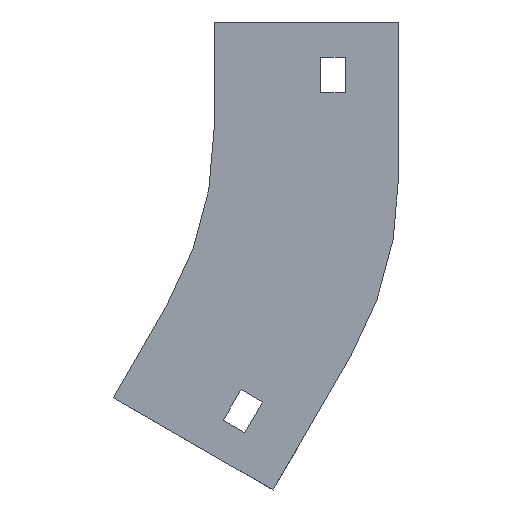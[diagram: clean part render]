
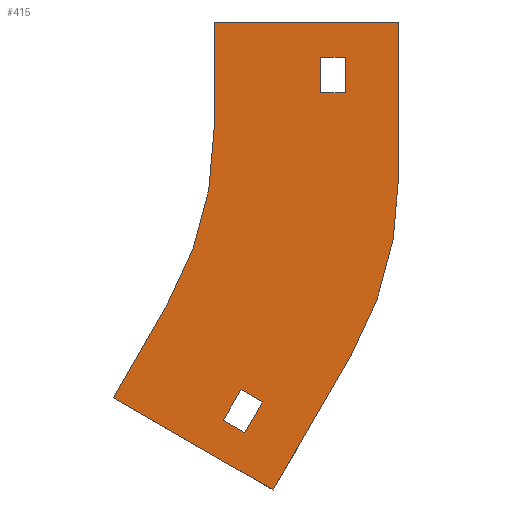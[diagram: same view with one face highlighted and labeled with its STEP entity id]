
A CAD part, left-side view. The second image highlights one B-rep face of the part: STEP entity #415.
In plain terms, the highlighted planar face has unit normal (-1, 0, 0).
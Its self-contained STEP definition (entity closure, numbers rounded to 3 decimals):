
#4 = CARTESIAN_POINT ( 'NONE',  ( -152., 13.397, -80. ) ) ;
#9 = VECTOR ( 'NONE', #1042, 1000. ) ;
#11 = CARTESIAN_POINT ( 'NONE',  ( -152., -30., -10. ) ) ;
#19 = DIRECTION ( 'NONE',  ( 0., 0., 1. ) ) ;
#24 = DIRECTION ( 'NONE',  ( 0., 0., -1. ) ) ;
#70 = EDGE_CURVE ( 'NONE', #782, #814, #1027, .T. ) ;
#79 = VECTOR ( 'NONE', #1400, 1000. ) ;
#91 = DIRECTION ( 'NONE',  ( 0., 0., -1. ) ) ;
#110 = CARTESIAN_POINT ( 'NONE',  ( -152., 0., -30. ) ) ;
#126 = DIRECTION ( 'NONE',  ( 0., -1., 0. ) ) ;
#138 = CARTESIAN_POINT ( 'NONE',  ( -152., -7.583, -103.66 ) ) ;
#155 = CARTESIAN_POINT ( 'NONE',  ( -152., -37., -20. ) ) ;
#161 = EDGE_CURVE ( 'NONE', #298, #982, #748, .T. ) ;
#174 = EDGE_CURVE ( 'NONE', #691, #298, #1404, .T. ) ;
#175 = LINE ( 'NONE', #720, #9 ) ;
#176 = VERTEX_POINT ( 'NONE', #405 ) ;
#177 = DIRECTION ( 'NONE',  ( 0., -1., 0. ) ) ;
#182 = AXIS2_PLACEMENT_3D ( 'NONE', #1276, #510, #91 ) ;
#186 = ORIENTED_EDGE ( 'NONE', *, *, #271, .F. ) ;
#188 = AXIS2_PLACEMENT_3D ( 'NONE', #1229, #242, #896 ) ;
#192 = VECTOR ( 'NONE', #1225, 1000. ) ;
#218 = CARTESIAN_POINT ( 'NONE',  ( -152., 100., -30. ) ) ;
#228 = LINE ( 'NONE', #884, #1122 ) ;
#232 = LINE ( 'NONE', #766, #318 ) ;
#234 = VERTEX_POINT ( 'NONE', #1263 ) ;
#242 = DIRECTION ( 'NONE',  ( 1., 0., 0. ) ) ;
#271 = EDGE_CURVE ( 'NONE', #982, #234, #1389, .T. ) ;
#282 = VERTEX_POINT ( 'NONE', #617 ) ;
#284 = VECTOR ( 'NONE', #328, 1000. ) ;
#288 = ORIENTED_EDGE ( 'NONE', *, *, #401, .T. ) ;
#292 = EDGE_LOOP ( 'NONE', ( #186, #761, #934, #1091, #867, #320, #723, #673 ) ) ;
#298 = VERTEX_POINT ( 'NONE', #110 ) ;
#318 = VECTOR ( 'NONE', #126, 1000. ) ;
#320 = ORIENTED_EDGE ( 'NONE', *, *, #634, .F. ) ;
#321 = CARTESIAN_POINT ( 'NONE',  ( -152., -30., -20. ) ) ;
#328 = DIRECTION ( 'NONE',  ( 0., -0.5, 0.866 ) ) ;
#333 = EDGE_CURVE ( 'NONE', #1010, #691, #1097, .T. ) ;
#343 = FACE_BOUND ( 'NONE', #1302, .T. ) ;
#344 = ORIENTED_EDGE ( 'NONE', *, *, #1386, .T. ) ;
#345 = DIRECTION ( 'NONE',  ( 0., 0.866, 0.5 ) ) ;
#349 = LINE ( 'NONE', #369, #1102 ) ;
#352 = VECTOR ( 'NONE', #19, 1000. ) ;
#354 = DIRECTION ( 'NONE',  ( 0., 1., 0. ) ) ;
#363 = LINE ( 'NONE', #794, #192 ) ;
#369 = CARTESIAN_POINT ( 'NONE',  ( -152., -2.583, -112.321 ) ) ;
#396 = ORIENTED_EDGE ( 'NONE', *, *, #823, .F. ) ;
#401 = EDGE_CURVE ( 'NONE', #1278, #782, #232, .T. ) ;
#405 = CARTESIAN_POINT ( 'NONE',  ( -152., -13.645, -107.16 ) ) ;
#406 = VERTEX_POINT ( 'NONE', #647 ) ;
#415 = ADVANCED_FACE ( 'NONE', ( #1084, #343, #540 ), #1211, .F. ) ;
#416 = CIRCLE ( 'NONE', #188, 100. ) ;
#424 = LINE ( 'NONE', #1076, #79 ) ;
#449 = VERTEX_POINT ( 'NONE', #1008 ) ;
#491 = VERTEX_POINT ( 'NONE', #138 ) ;
#510 = DIRECTION ( 'NONE',  ( -1., 0., 0. ) ) ;
#540 = FACE_BOUND ( 'NONE', #662, .T. ) ;
#542 = CARTESIAN_POINT ( 'NONE',  ( -152., -52., -43.933 ) ) ;
#589 = CARTESIAN_POINT ( 'NONE',  ( -152., -30., -10. ) ) ;
#606 = DIRECTION ( 'NONE',  ( 0., -0.5, 0.866 ) ) ;
#610 = CARTESIAN_POINT ( 'NONE',  ( -152., 0., 0. ) ) ;
#617 = CARTESIAN_POINT ( 'NONE',  ( -152., -2.583, -112.321 ) ) ;
#634 = EDGE_CURVE ( 'NONE', #406, #719, #175, .T. ) ;
#636 = DIRECTION ( 'NONE',  ( 0., 0., -1. ) ) ;
#647 = CARTESIAN_POINT ( 'NONE',  ( -152., -38.603, -93.933 ) ) ;
#654 = DIRECTION ( 'NONE',  ( 1., 0., 0. ) ) ;
#660 = CARTESIAN_POINT ( 'NONE',  ( -152., -16.636, -131.981 ) ) ;
#662 = EDGE_LOOP ( 'NONE', ( #1072, #396, #844, #978 ) ) ;
#673 = ORIENTED_EDGE ( 'NONE', *, *, #985, .F. ) ;
#674 = CARTESIAN_POINT ( 'NONE',  ( -152., -7.583, -103.66 ) ) ;
#691 = VERTEX_POINT ( 'NONE', #4 ) ;
#719 = VERTEX_POINT ( 'NONE', #660 ) ;
#720 = CARTESIAN_POINT ( 'NONE',  ( -152., -16.636, -131.981 ) ) ;
#723 = ORIENTED_EDGE ( 'NONE', *, *, #1363, .F. ) ;
#728 = CARTESIAN_POINT ( 'NONE',  ( -152., 28.397, -105.981 ) ) ;
#748 = LINE ( 'NONE', #610, #912 ) ;
#761 = ORIENTED_EDGE ( 'NONE', *, *, #161, .F. ) ;
#766 = CARTESIAN_POINT ( 'NONE',  ( -152., -30., -10. ) ) ;
#772 = CARTESIAN_POINT ( 'NONE',  ( -152., -37., -10. ) ) ;
#776 = EDGE_CURVE ( 'NONE', #719, #1010, #424, .T. ) ;
#782 = VERTEX_POINT ( 'NONE', #772 ) ;
#784 = LINE ( 'NONE', #11, #352 ) ;
#794 = CARTESIAN_POINT ( 'NONE',  ( -152., -2.583, -112.321 ) ) ;
#814 = VERTEX_POINT ( 'NONE', #155 ) ;
#823 = EDGE_CURVE ( 'NONE', #491, #282, #363, .T. ) ;
#844 = ORIENTED_EDGE ( 'NONE', *, *, #1089, .F. ) ;
#858 = CARTESIAN_POINT ( 'NONE',  ( -152., -52., 0. ) ) ;
#867 = ORIENTED_EDGE ( 'NONE', *, *, #776, .F. ) ;
#884 = CARTESIAN_POINT ( 'NONE',  ( -152., -30., -20. ) ) ;
#885 = EDGE_CURVE ( 'NONE', #282, #449, #349, .T. ) ;
#896 = DIRECTION ( 'NONE',  ( 0., 0., 1. ) ) ;
#912 = VECTOR ( 'NONE', #1364, 1000. ) ;
#915 = LINE ( 'NONE', #1365, #1284 ) ;
#932 = ORIENTED_EDGE ( 'NONE', *, *, #70, .T. ) ;
#934 = ORIENTED_EDGE ( 'NONE', *, *, #174, .F. ) ;
#947 = DIRECTION ( 'NONE',  ( 0., -0.866, -0.5 ) ) ;
#973 = VERTEX_POINT ( 'NONE', #542 ) ;
#978 = ORIENTED_EDGE ( 'NONE', *, *, #1258, .F. ) ;
#982 = VERTEX_POINT ( 'NONE', #1294 ) ;
#985 = EDGE_CURVE ( 'NONE', #234, #973, #1288, .T. ) ;
#988 = VECTOR ( 'NONE', #636, 1000. ) ;
#1008 = CARTESIAN_POINT ( 'NONE',  ( -152., -8.645, -115.821 ) ) ;
#1010 = VERTEX_POINT ( 'NONE', #728 ) ;
#1027 = LINE ( 'NONE', #1335, #1254 ) ;
#1030 = VERTEX_POINT ( 'NONE', #321 ) ;
#1035 = DIRECTION ( 'NONE',  ( 0., 0., -1. ) ) ;
#1042 = DIRECTION ( 'NONE',  ( 0., 0.5, -0.866 ) ) ;
#1072 = ORIENTED_EDGE ( 'NONE', *, *, #885, .F. ) ;
#1076 = CARTESIAN_POINT ( 'NONE',  ( -152., 28.397, -105.981 ) ) ;
#1082 = EDGE_CURVE ( 'NONE', #814, #1030, #228, .T. ) ;
#1084 = FACE_OUTER_BOUND ( 'NONE', #292, .T. ) ;
#1089 = EDGE_CURVE ( 'NONE', #176, #491, #1228, .T. ) ;
#1091 = ORIENTED_EDGE ( 'NONE', *, *, #333, .F. ) ;
#1097 = LINE ( 'NONE', #1198, #284 ) ;
#1102 = VECTOR ( 'NONE', #947, 1000. ) ;
#1122 = VECTOR ( 'NONE', #354, 1000. ) ;
#1165 = VECTOR ( 'NONE', #345, 1000. ) ;
#1186 = VECTOR ( 'NONE', #177, 1000. ) ;
#1198 = CARTESIAN_POINT ( 'NONE',  ( -152., 13.397, -80. ) ) ;
#1211 = PLANE ( 'NONE',  #1405 ) ;
#1225 = DIRECTION ( 'NONE',  ( 0., 0.5, -0.866 ) ) ;
#1228 = LINE ( 'NONE', #674, #1165 ) ;
#1229 = CARTESIAN_POINT ( 'NONE',  ( -152., 48., -43.933 ) ) ;
#1254 = VECTOR ( 'NONE', #1035, 1000. ) ;
#1258 = EDGE_CURVE ( 'NONE', #449, #176, #915, .T. ) ;
#1263 = CARTESIAN_POINT ( 'NONE',  ( -152., -52., 0. ) ) ;
#1276 = CARTESIAN_POINT ( 'NONE',  ( -152., 100., -30. ) ) ;
#1278 = VERTEX_POINT ( 'NONE', #589 ) ;
#1284 = VECTOR ( 'NONE', #606, 1000. ) ;
#1288 = LINE ( 'NONE', #1385, #988 ) ;
#1294 = CARTESIAN_POINT ( 'NONE',  ( -152., 0., 0. ) ) ;
#1302 = EDGE_LOOP ( 'NONE', ( #344, #288, #932, #1382 ) ) ;
#1335 = CARTESIAN_POINT ( 'NONE',  ( -152., -37., -10. ) ) ;
#1363 = EDGE_CURVE ( 'NONE', #973, #406, #416, .T. ) ;
#1364 = DIRECTION ( 'NONE',  ( 0., 0., 1. ) ) ;
#1365 = CARTESIAN_POINT ( 'NONE',  ( -152., -8.645, -115.821 ) ) ;
#1382 = ORIENTED_EDGE ( 'NONE', *, *, #1082, .T. ) ;
#1385 = CARTESIAN_POINT ( 'NONE',  ( -152., -52., -43.933 ) ) ;
#1386 = EDGE_CURVE ( 'NONE', #1030, #1278, #784, .T. ) ;
#1389 = LINE ( 'NONE', #858, #1186 ) ;
#1400 = DIRECTION ( 'NONE',  ( 0., 0.866, 0.5 ) ) ;
#1404 = CIRCLE ( 'NONE', #182, 100. ) ;
#1405 = AXIS2_PLACEMENT_3D ( 'NONE', #218, #654, #24 ) ;
